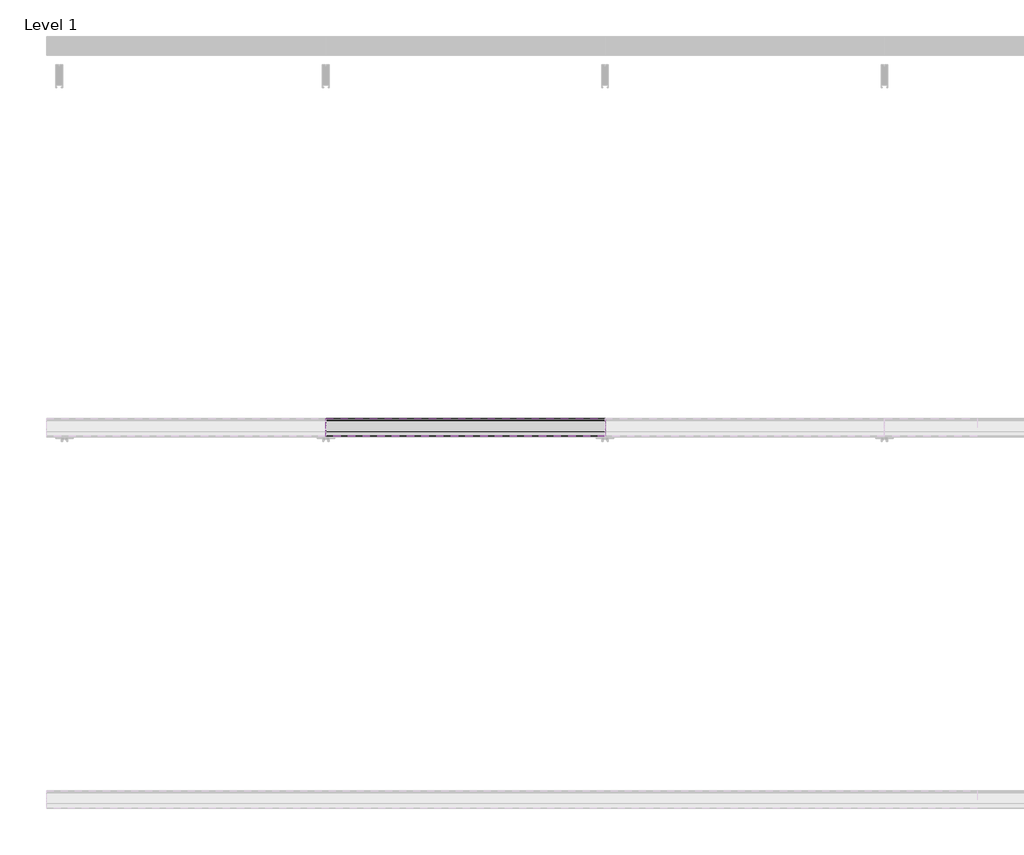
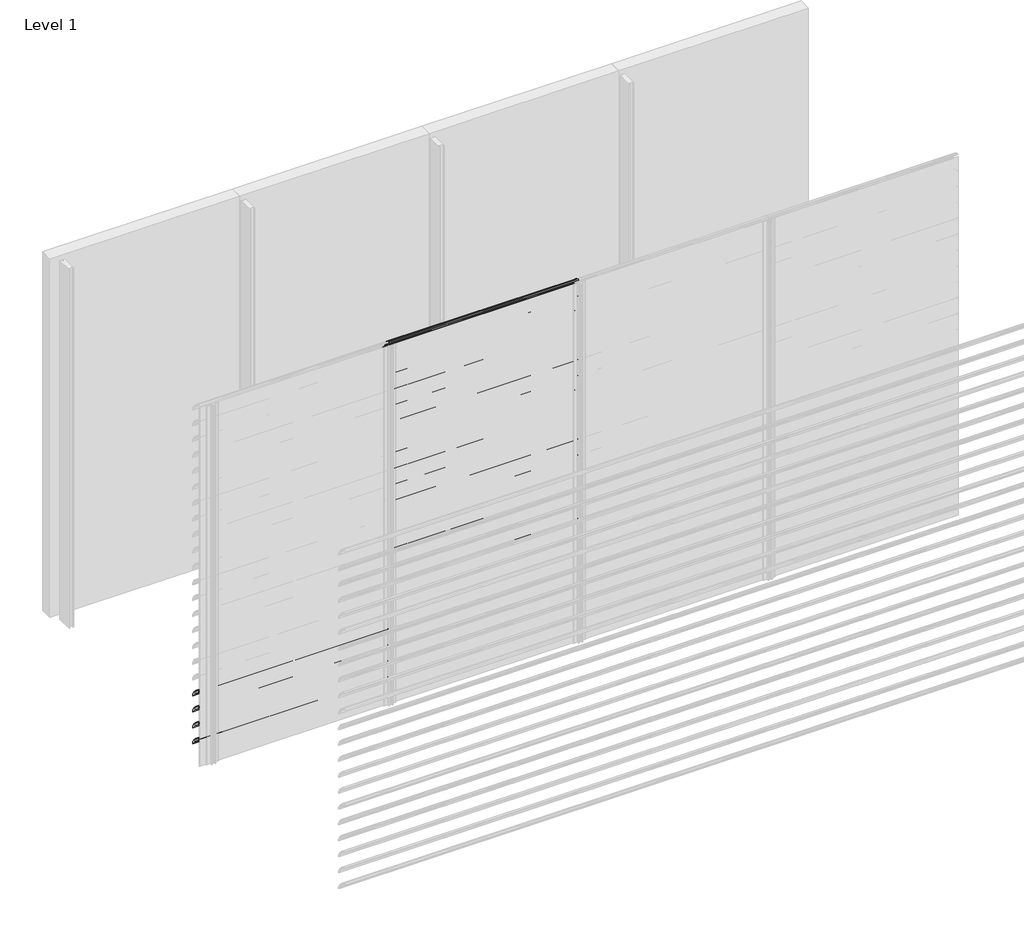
# One storey, part 5 of 57: 20 proxies.
"""IFC4 building model written with IfcOpenShell, lengths in millimetres."""

from ifc_helpers import new_model, si_unit, point, frame, frame_2d, origin, place, context, project, spatial, polyline, circle_curve, trimmed, segment, composite_curve, outline, extrude, element, save

model = new_model("IFC4")

# Units and contexts
model_context = context("Model", 3, world=origin())
ifc_project = project(units=[si_unit("LENGTHUNIT", "METRE", prefix="MILLI")], contexts=[model_context])

# Site, building, storey
site = spatial("IfcSite", under=ifc_project)
building = spatial("IfcBuilding", under=site)
storey = spatial("IfcBuildingStorey", under=building, Name="Level 1", Elevation=0.0)

# Proxies
placement = place(None, origin())
element("IfcBuildingElementProxy", 1, Name="Wall Sweeps", at=placement, inside=storey, context=model_context, shape_type="SweptSolid", body=[
    extrude(outline(composite_curve([segment(trimmed(circle_curve(frame_2d((-53993.7822526, 622.4913792)), 4.2177474), [point((-53989.6985606, 623.5462976))], [point((-53993.7822526, 626.7091266))], False, "CARTESIAN"), True, "CONTINUOUS"), segment(trimmed(circle_curve(frame_2d((-54018.7150834, 524.2536312)), 105.4456002), [point((-53993.7822526, 626.7091266))], [point((-53971.7914298, 618.6832099))], False, "CARTESIAN"), True, "CONTINUOUS"), segment(trimmed(circle_curve(frame_2d((-54061.7199745, 470.0352476)), 173.7335887), [point((-53971.7914298, 618.6832099))], [point((-53913.0720121, 559.9637922))], False, "CARTESIAN"), True, "CONTINUOUS"), segment(trimmed(circle_curve(frame_2d((-54004.9297178, 508.1860314)), 105.4456002), [point((-53913.0720121, 559.9637922))], [point((-53903.6249616, 537.4455765))], False, "CARTESIAN"), True, "CONTINUOUS"), segment(trimmed(circle_curve(frame_2d((-53907.809737, 536.3307305)), 4.3307305), [point((-53903.6249616, 537.4455765))], [point((-53909.0769196, 532.189538))], False, "CARTESIAN"), True, "CONTINUOUS"), segment(polyline([(-53909.0769196, 532.189538), (-53934.7401984, 556.9722783)]), True, "CONTINUOUS"), segment(trimmed(circle_curve(frame_2d((-53931.3879574, 559.2977626)), 4.079877), [point((-53934.7401984, 556.9722783))], [point((-53930.7310597, 563.3244091))], False, "CARTESIAN"), True, "CONTINUOUS"), segment(trimmed(circle_curve(frame_2d((-54014.6665585, 541.2544323)), 86.7885467), [point((-53930.7310597, 563.3244091))], [point((-53942.3028351, 589.1683485))], True, "CARTESIAN"), True, "CONTINUOUS"), segment(polyline([(-53942.3028351, 589.1683485), (-53940.7230099, 591.9046861)]), True, "CONTINUOUS"), segment(trimmed(circle_curve(frame_2d((-54061.7199745, 470.0352476)), 171.7335887), [point((-53940.7230099, 591.9046861))], [point((-53972.7555872, 616.9289618))], True, "CARTESIAN"), True, "CONTINUOUS"), segment(trimmed(circle_curve(frame_2d((-54018.7150834, 524.2536312)), 103.4456002), [point((-53972.7555872, 616.9289618))], [point((-53989.6985606, 623.5462976))], True, "CARTESIAN"), True, "CONTINUOUS")], self_intersect=False)), frame((0.0, 0.0, 0.0), z_axis=(1.0, 0.0, 0.0), x_axis=(0.0, 1.0, 0.0)), (0.0, 0.0, 1.0), 1500.0),
])
element("IfcBuildingElementProxy", 2, Name="Wall Sweeps", at=placement, inside=storey, context=model_context, shape_type="SweptSolid", body=[
    extrude(outline(composite_curve([segment(trimmed(circle_curve(frame_2d((-53993.7822526, 489.4913792)), 4.2177474), [point((-53989.6985606, 490.5462976))], [point((-53993.7822526, 493.7091266))], False, "CARTESIAN"), True, "CONTINUOUS"), segment(trimmed(circle_curve(frame_2d((-54018.7150834, 391.2536312)), 105.4456002), [point((-53993.7822526, 493.7091266))], [point((-53971.7914298, 485.6832099))], False, "CARTESIAN"), True, "CONTINUOUS"), segment(trimmed(circle_curve(frame_2d((-54061.7199745, 337.0352476)), 173.7335887), [point((-53971.7914298, 485.6832099))], [point((-53913.0720121, 426.9637922))], False, "CARTESIAN"), True, "CONTINUOUS"), segment(trimmed(circle_curve(frame_2d((-54004.9297178, 375.1860314)), 105.4456002), [point((-53913.0720121, 426.9637922))], [point((-53903.6249616, 404.4455765))], False, "CARTESIAN"), True, "CONTINUOUS"), segment(trimmed(circle_curve(frame_2d((-53907.809737, 403.3307305)), 4.3307305), [point((-53903.6249616, 404.4455765))], [point((-53909.0769196, 399.189538))], False, "CARTESIAN"), True, "CONTINUOUS"), segment(polyline([(-53909.0769196, 399.189538), (-53934.7401984, 423.9722783)]), True, "CONTINUOUS"), segment(trimmed(circle_curve(frame_2d((-53931.3879574, 426.2977626)), 4.079877), [point((-53934.7401984, 423.9722783))], [point((-53930.7310597, 430.3244091))], False, "CARTESIAN"), True, "CONTINUOUS"), segment(trimmed(circle_curve(frame_2d((-54014.6665585, 408.2544323)), 86.7885467), [point((-53930.7310597, 430.3244091))], [point((-53942.3028351, 456.1683485))], True, "CARTESIAN"), True, "CONTINUOUS"), segment(polyline([(-53942.3028351, 456.1683485), (-53940.7230099, 458.9046861)]), True, "CONTINUOUS"), segment(trimmed(circle_curve(frame_2d((-54061.7199745, 337.0352476)), 171.7335887), [point((-53940.7230099, 458.9046861))], [point((-53972.7555872, 483.9289618))], True, "CARTESIAN"), True, "CONTINUOUS"), segment(trimmed(circle_curve(frame_2d((-54018.7150834, 391.2536312)), 103.4456002), [point((-53972.7555872, 483.9289618))], [point((-53989.6985606, 490.5462976))], True, "CARTESIAN"), True, "CONTINUOUS")], self_intersect=False)), frame((0.0, 0.0, 0.0), z_axis=(1.0, 0.0, 0.0), x_axis=(0.0, 1.0, 0.0)), (0.0, 0.0, 1.0), 1500.0),
])
element("IfcBuildingElementProxy", 3, Name="Wall Sweeps", at=placement, inside=storey, context=model_context, shape_type="SweptSolid", body=[
    extrude(outline(composite_curve([segment(trimmed(circle_curve(frame_2d((-53993.7822526, 356.4913792)), 4.2177474), [point((-53989.6985606, 357.5462976))], [point((-53993.7822526, 360.7091266))], False, "CARTESIAN"), True, "CONTINUOUS"), segment(trimmed(circle_curve(frame_2d((-54018.7150834, 258.2536312)), 105.4456002), [point((-53993.7822526, 360.7091266))], [point((-53971.7914298, 352.6832099))], False, "CARTESIAN"), True, "CONTINUOUS"), segment(trimmed(circle_curve(frame_2d((-54061.7199745, 204.0352476)), 173.7335887), [point((-53971.7914298, 352.6832099))], [point((-53913.0720121, 293.9637922))], False, "CARTESIAN"), True, "CONTINUOUS"), segment(trimmed(circle_curve(frame_2d((-54004.9297178, 242.1860314)), 105.4456002), [point((-53913.0720121, 293.9637922))], [point((-53903.6249616, 271.4455765))], False, "CARTESIAN"), True, "CONTINUOUS"), segment(trimmed(circle_curve(frame_2d((-53907.809737, 270.3307305)), 4.3307305), [point((-53903.6249616, 271.4455765))], [point((-53909.0769196, 266.189538))], False, "CARTESIAN"), True, "CONTINUOUS"), segment(polyline([(-53909.0769196, 266.189538), (-53934.7401984, 290.9722783)]), True, "CONTINUOUS"), segment(trimmed(circle_curve(frame_2d((-53931.3879574, 293.2977626)), 4.079877), [point((-53934.7401984, 290.9722783))], [point((-53930.7310597, 297.3244091))], False, "CARTESIAN"), True, "CONTINUOUS"), segment(trimmed(circle_curve(frame_2d((-54014.6665585, 275.2544323)), 86.7885467), [point((-53930.7310597, 297.3244091))], [point((-53942.3028351, 323.1683485))], True, "CARTESIAN"), True, "CONTINUOUS"), segment(polyline([(-53942.3028351, 323.1683485), (-53940.7230099, 325.9046861)]), True, "CONTINUOUS"), segment(trimmed(circle_curve(frame_2d((-54061.7199745, 204.0352476)), 171.7335887), [point((-53940.7230099, 325.9046861))], [point((-53972.7555872, 350.9289618))], True, "CARTESIAN"), True, "CONTINUOUS"), segment(trimmed(circle_curve(frame_2d((-54018.7150834, 258.2536312)), 103.4456002), [point((-53972.7555872, 350.9289618))], [point((-53989.6985606, 357.5462976))], True, "CARTESIAN"), True, "CONTINUOUS")], self_intersect=False)), frame((0.0, 0.0, 0.0), z_axis=(1.0, 0.0, 0.0), x_axis=(0.0, 1.0, 0.0)), (0.0, 0.0, 1.0), 1500.0),
])
element("IfcBuildingElementProxy", 4, Name="Wall Sweeps", at=placement, inside=storey, context=model_context, shape_type="SweptSolid", body=[
    extrude(outline(composite_curve([segment(trimmed(circle_curve(frame_2d((-53993.7822526, 223.4913792)), 4.2177474), [point((-53989.6985606, 224.5462976))], [point((-53993.7822526, 227.7091266))], False, "CARTESIAN"), True, "CONTINUOUS"), segment(trimmed(circle_curve(frame_2d((-54018.7150834, 125.2536312)), 105.4456002), [point((-53993.7822526, 227.7091266))], [point((-53971.7914298, 219.6832099))], False, "CARTESIAN"), True, "CONTINUOUS"), segment(trimmed(circle_curve(frame_2d((-54061.7199745, 71.0352476)), 173.7335887), [point((-53971.7914298, 219.6832099))], [point((-53913.0720121, 160.9637922))], False, "CARTESIAN"), True, "CONTINUOUS"), segment(trimmed(circle_curve(frame_2d((-54004.9297178, 109.1860314)), 105.4456002), [point((-53913.0720121, 160.9637922))], [point((-53903.6249616, 138.4455765))], False, "CARTESIAN"), True, "CONTINUOUS"), segment(trimmed(circle_curve(frame_2d((-53907.809737, 137.3307305)), 4.3307305), [point((-53903.6249616, 138.4455765))], [point((-53909.0769196, 133.189538))], False, "CARTESIAN"), True, "CONTINUOUS"), segment(polyline([(-53909.0769196, 133.189538), (-53934.7401984, 157.9722783)]), True, "CONTINUOUS"), segment(trimmed(circle_curve(frame_2d((-53931.3879574, 160.2977626)), 4.079877), [point((-53934.7401984, 157.9722783))], [point((-53930.7310597, 164.3244091))], False, "CARTESIAN"), True, "CONTINUOUS"), segment(trimmed(circle_curve(frame_2d((-54014.6665585, 142.2544323)), 86.7885467), [point((-53930.7310597, 164.3244091))], [point((-53942.3028351, 190.1683485))], True, "CARTESIAN"), True, "CONTINUOUS"), segment(polyline([(-53942.3028351, 190.1683485), (-53940.7230099, 192.9046861)]), True, "CONTINUOUS"), segment(trimmed(circle_curve(frame_2d((-54061.7199745, 71.0352476)), 171.7335887), [point((-53940.7230099, 192.9046861))], [point((-53972.7555872, 217.9289618))], True, "CARTESIAN"), True, "CONTINUOUS"), segment(trimmed(circle_curve(frame_2d((-54018.7150834, 125.2536312)), 103.4456002), [point((-53972.7555872, 217.9289618))], [point((-53989.6985606, 224.5462976))], True, "CARTESIAN"), True, "CONTINUOUS")], self_intersect=False)), frame((0.0, 0.0, 0.0), z_axis=(1.0, 0.0, 0.0), x_axis=(0.0, 1.0, 0.0)), (0.0, 0.0, 1.0), 1500.0),
])
element("IfcBuildingElementProxy", 5, Name="Wall Sweeps", at=placement, inside=storey, context=model_context, shape_type="SweptSolid", body=[
    extrude(outline(composite_curve([segment(trimmed(circle_curve(frame_2d((-53993.7822526, 3016.4913792)), 4.2177474), [point((-53989.6985606, 3017.5462976))], [point((-53993.7822526, 3020.7091266))], False, "CARTESIAN"), True, "CONTINUOUS"), segment(trimmed(circle_curve(frame_2d((-54018.7150834, 2918.2536312)), 105.4456002), [point((-53993.7822526, 3020.7091266))], [point((-53971.7914298, 3012.6832099))], False, "CARTESIAN"), True, "CONTINUOUS"), segment(trimmed(circle_curve(frame_2d((-54061.7199745, 2864.0352476)), 173.7335887), [point((-53971.7914298, 3012.6832099))], [point((-53913.0720121, 2953.9637922))], False, "CARTESIAN"), True, "CONTINUOUS"), segment(trimmed(circle_curve(frame_2d((-54004.9297178, 2902.1860314)), 105.4456002), [point((-53913.0720121, 2953.9637922))], [point((-53903.6249616, 2931.4455765))], False, "CARTESIAN"), True, "CONTINUOUS"), segment(trimmed(circle_curve(frame_2d((-53907.809737, 2930.3307305)), 4.3307305), [point((-53903.6249616, 2931.4455765))], [point((-53909.0769196, 2926.189538))], False, "CARTESIAN"), True, "CONTINUOUS"), segment(polyline([(-53909.0769196, 2926.189538), (-53934.7401984, 2950.9722783)]), True, "CONTINUOUS"), segment(trimmed(circle_curve(frame_2d((-53931.3879574, 2953.2977626)), 4.079877), [point((-53934.7401984, 2950.9722783))], [point((-53930.7310597, 2957.3244091))], False, "CARTESIAN"), True, "CONTINUOUS"), segment(trimmed(circle_curve(frame_2d((-54014.6665585, 2935.2544323)), 86.7885467), [point((-53930.7310597, 2957.3244091))], [point((-53942.3028351, 2983.1683485))], True, "CARTESIAN"), True, "CONTINUOUS"), segment(polyline([(-53942.3028351, 2983.1683485), (-53940.7230099, 2985.9046861)]), True, "CONTINUOUS"), segment(trimmed(circle_curve(frame_2d((-54061.7199745, 2864.0352476)), 171.7335887), [point((-53940.7230099, 2985.9046861))], [point((-53972.7555872, 3010.9289618))], True, "CARTESIAN"), True, "CONTINUOUS"), segment(trimmed(circle_curve(frame_2d((-54018.7150834, 2918.2536312)), 103.4456002), [point((-53972.7555872, 3010.9289618))], [point((-53989.6985606, 3017.5462976))], True, "CARTESIAN"), True, "CONTINUOUS")], self_intersect=False)), frame((1500.0, 0.0, 0.0), z_axis=(1.0, 0.0, 0.0), x_axis=(0.0, 1.0, 0.0)), (0.0, 0.0, 1.0), 1500.0),
])
element("IfcBuildingElementProxy", 6, Name="Wall Sweeps", at=placement, inside=storey, context=model_context, shape_type="SweptSolid", body=[
    extrude(outline(composite_curve([segment(trimmed(circle_curve(frame_2d((-53993.7822526, 2883.4913792)), 4.2177474), [point((-53989.6985606, 2884.5462976))], [point((-53993.7822526, 2887.7091266))], False, "CARTESIAN"), True, "CONTINUOUS"), segment(trimmed(circle_curve(frame_2d((-54018.7150834, 2785.2536312)), 105.4456002), [point((-53993.7822526, 2887.7091266))], [point((-53971.7914298, 2879.6832099))], False, "CARTESIAN"), True, "CONTINUOUS"), segment(trimmed(circle_curve(frame_2d((-54061.7199745, 2731.0352476)), 173.7335887), [point((-53971.7914298, 2879.6832099))], [point((-53913.0720121, 2820.9637922))], False, "CARTESIAN"), True, "CONTINUOUS"), segment(trimmed(circle_curve(frame_2d((-54004.9297178, 2769.1860314)), 105.4456002), [point((-53913.0720121, 2820.9637922))], [point((-53903.6249616, 2798.4455765))], False, "CARTESIAN"), True, "CONTINUOUS"), segment(trimmed(circle_curve(frame_2d((-53907.809737, 2797.3307305)), 4.3307305), [point((-53903.6249616, 2798.4455765))], [point((-53909.0769196, 2793.189538))], False, "CARTESIAN"), True, "CONTINUOUS"), segment(polyline([(-53909.0769196, 2793.189538), (-53934.7401984, 2817.9722783)]), True, "CONTINUOUS"), segment(trimmed(circle_curve(frame_2d((-53931.3879574, 2820.2977626)), 4.079877), [point((-53934.7401984, 2817.9722783))], [point((-53930.7310597, 2824.3244091))], False, "CARTESIAN"), True, "CONTINUOUS"), segment(trimmed(circle_curve(frame_2d((-54014.6665585, 2802.2544323)), 86.7885467), [point((-53930.7310597, 2824.3244091))], [point((-53942.3028351, 2850.1683485))], True, "CARTESIAN"), True, "CONTINUOUS"), segment(polyline([(-53942.3028351, 2850.1683485), (-53940.7230099, 2852.9046861)]), True, "CONTINUOUS"), segment(trimmed(circle_curve(frame_2d((-54061.7199745, 2731.0352476)), 171.7335887), [point((-53940.7230099, 2852.9046861))], [point((-53972.7555872, 2877.9289618))], True, "CARTESIAN"), True, "CONTINUOUS"), segment(trimmed(circle_curve(frame_2d((-54018.7150834, 2785.2536312)), 103.4456002), [point((-53972.7555872, 2877.9289618))], [point((-53989.6985606, 2884.5462976))], True, "CARTESIAN"), True, "CONTINUOUS")], self_intersect=False)), frame((1500.0, 0.0, 0.0), z_axis=(1.0, 0.0, 0.0), x_axis=(0.0, 1.0, 0.0)), (0.0, 0.0, 1.0), 1500.0),
])
element("IfcBuildingElementProxy", 7, Name="Wall Sweeps", at=placement, inside=storey, context=model_context, shape_type="SweptSolid", body=[
    extrude(outline(composite_curve([segment(trimmed(circle_curve(frame_2d((-53993.7822526, 2750.4913792)), 4.2177474), [point((-53989.6985606, 2751.5462976))], [point((-53993.7822526, 2754.7091266))], False, "CARTESIAN"), True, "CONTINUOUS"), segment(trimmed(circle_curve(frame_2d((-54018.7150834, 2652.2536312)), 105.4456002), [point((-53993.7822526, 2754.7091266))], [point((-53971.7914298, 2746.6832099))], False, "CARTESIAN"), True, "CONTINUOUS"), segment(trimmed(circle_curve(frame_2d((-54061.7199745, 2598.0352476)), 173.7335887), [point((-53971.7914298, 2746.6832099))], [point((-53913.0720121, 2687.9637922))], False, "CARTESIAN"), True, "CONTINUOUS"), segment(trimmed(circle_curve(frame_2d((-54004.9297178, 2636.1860314)), 105.4456002), [point((-53913.0720121, 2687.9637922))], [point((-53903.6249616, 2665.4455765))], False, "CARTESIAN"), True, "CONTINUOUS"), segment(trimmed(circle_curve(frame_2d((-53907.809737, 2664.3307305)), 4.3307305), [point((-53903.6249616, 2665.4455765))], [point((-53909.0769196, 2660.189538))], False, "CARTESIAN"), True, "CONTINUOUS"), segment(polyline([(-53909.0769196, 2660.189538), (-53934.7401984, 2684.9722783)]), True, "CONTINUOUS"), segment(trimmed(circle_curve(frame_2d((-53931.3879574, 2687.2977626)), 4.079877), [point((-53934.7401984, 2684.9722783))], [point((-53930.7310597, 2691.3244091))], False, "CARTESIAN"), True, "CONTINUOUS"), segment(trimmed(circle_curve(frame_2d((-54014.6665585, 2669.2544323)), 86.7885467), [point((-53930.7310597, 2691.3244091))], [point((-53942.3028351, 2717.1683485))], True, "CARTESIAN"), True, "CONTINUOUS"), segment(polyline([(-53942.3028351, 2717.1683485), (-53940.7230099, 2719.9046861)]), True, "CONTINUOUS"), segment(trimmed(circle_curve(frame_2d((-54061.7199745, 2598.0352476)), 171.7335887), [point((-53940.7230099, 2719.9046861))], [point((-53972.7555872, 2744.9289618))], True, "CARTESIAN"), True, "CONTINUOUS"), segment(trimmed(circle_curve(frame_2d((-54018.7150834, 2652.2536312)), 103.4456002), [point((-53972.7555872, 2744.9289618))], [point((-53989.6985606, 2751.5462976))], True, "CARTESIAN"), True, "CONTINUOUS")], self_intersect=False)), frame((1500.0, 0.0, 0.0), z_axis=(1.0, 0.0, 0.0), x_axis=(0.0, 1.0, 0.0)), (0.0, 0.0, 1.0), 1500.0),
])
element("IfcBuildingElementProxy", 8, Name="Wall Sweeps", at=placement, inside=storey, context=model_context, shape_type="SweptSolid", body=[
    extrude(outline(composite_curve([segment(trimmed(circle_curve(frame_2d((-53993.7822526, 2617.4913792)), 4.2177474), [point((-53989.6985606, 2618.5462976))], [point((-53993.7822526, 2621.7091266))], False, "CARTESIAN"), True, "CONTINUOUS"), segment(trimmed(circle_curve(frame_2d((-54018.7150834, 2519.2536312)), 105.4456002), [point((-53993.7822526, 2621.7091266))], [point((-53971.7914298, 2613.6832099))], False, "CARTESIAN"), True, "CONTINUOUS"), segment(trimmed(circle_curve(frame_2d((-54061.7199745, 2465.0352476)), 173.7335887), [point((-53971.7914298, 2613.6832099))], [point((-53913.0720121, 2554.9637922))], False, "CARTESIAN"), True, "CONTINUOUS"), segment(trimmed(circle_curve(frame_2d((-54004.9297178, 2503.1860314)), 105.4456002), [point((-53913.0720121, 2554.9637922))], [point((-53903.6249616, 2532.4455765))], False, "CARTESIAN"), True, "CONTINUOUS"), segment(trimmed(circle_curve(frame_2d((-53907.809737, 2531.3307305)), 4.3307305), [point((-53903.6249616, 2532.4455765))], [point((-53909.0769196, 2527.189538))], False, "CARTESIAN"), True, "CONTINUOUS"), segment(polyline([(-53909.0769196, 2527.189538), (-53934.7401984, 2551.9722783)]), True, "CONTINUOUS"), segment(trimmed(circle_curve(frame_2d((-53931.3879574, 2554.2977626)), 4.079877), [point((-53934.7401984, 2551.9722783))], [point((-53930.7310597, 2558.3244091))], False, "CARTESIAN"), True, "CONTINUOUS"), segment(trimmed(circle_curve(frame_2d((-54014.6665585, 2536.2544323)), 86.7885467), [point((-53930.7310597, 2558.3244091))], [point((-53942.3028351, 2584.1683485))], True, "CARTESIAN"), True, "CONTINUOUS"), segment(polyline([(-53942.3028351, 2584.1683485), (-53940.7230099, 2586.9046861)]), True, "CONTINUOUS"), segment(trimmed(circle_curve(frame_2d((-54061.7199745, 2465.0352476)), 171.7335887), [point((-53940.7230099, 2586.9046861))], [point((-53972.7555872, 2611.9289618))], True, "CARTESIAN"), True, "CONTINUOUS"), segment(trimmed(circle_curve(frame_2d((-54018.7150834, 2519.2536312)), 103.4456002), [point((-53972.7555872, 2611.9289618))], [point((-53989.6985606, 2618.5462976))], True, "CARTESIAN"), True, "CONTINUOUS")], self_intersect=False)), frame((1500.0, 0.0, 0.0), z_axis=(1.0, 0.0, 0.0), x_axis=(0.0, 1.0, 0.0)), (0.0, 0.0, 1.0), 1500.0),
])
element("IfcBuildingElementProxy", 9, Name="Wall Sweeps", at=placement, inside=storey, context=model_context, shape_type="SweptSolid", body=[
    extrude(outline(composite_curve([segment(trimmed(circle_curve(frame_2d((-53993.7822526, 2484.4913792)), 4.2177474), [point((-53989.6985606, 2485.5462976))], [point((-53993.7822526, 2488.7091266))], False, "CARTESIAN"), True, "CONTINUOUS"), segment(trimmed(circle_curve(frame_2d((-54018.7150834, 2386.2536312)), 105.4456002), [point((-53993.7822526, 2488.7091266))], [point((-53971.7914298, 2480.6832099))], False, "CARTESIAN"), True, "CONTINUOUS"), segment(trimmed(circle_curve(frame_2d((-54061.7199745, 2332.0352476)), 173.7335887), [point((-53971.7914298, 2480.6832099))], [point((-53913.0720121, 2421.9637922))], False, "CARTESIAN"), True, "CONTINUOUS"), segment(trimmed(circle_curve(frame_2d((-54004.9297178, 2370.1860314)), 105.4456002), [point((-53913.0720121, 2421.9637922))], [point((-53903.6249616, 2399.4455765))], False, "CARTESIAN"), True, "CONTINUOUS"), segment(trimmed(circle_curve(frame_2d((-53907.809737, 2398.3307305)), 4.3307305), [point((-53903.6249616, 2399.4455765))], [point((-53909.0769196, 2394.189538))], False, "CARTESIAN"), True, "CONTINUOUS"), segment(polyline([(-53909.0769196, 2394.189538), (-53934.7401984, 2418.9722783)]), True, "CONTINUOUS"), segment(trimmed(circle_curve(frame_2d((-53931.3879574, 2421.2977626)), 4.079877), [point((-53934.7401984, 2418.9722783))], [point((-53930.7310597, 2425.3244091))], False, "CARTESIAN"), True, "CONTINUOUS"), segment(trimmed(circle_curve(frame_2d((-54014.6665585, 2403.2544323)), 86.7885467), [point((-53930.7310597, 2425.3244091))], [point((-53942.3028351, 2451.1683485))], True, "CARTESIAN"), True, "CONTINUOUS"), segment(polyline([(-53942.3028351, 2451.1683485), (-53940.7230099, 2453.9046861)]), True, "CONTINUOUS"), segment(trimmed(circle_curve(frame_2d((-54061.7199745, 2332.0352476)), 171.7335887), [point((-53940.7230099, 2453.9046861))], [point((-53972.7555872, 2478.9289618))], True, "CARTESIAN"), True, "CONTINUOUS"), segment(trimmed(circle_curve(frame_2d((-54018.7150834, 2386.2536312)), 103.4456002), [point((-53972.7555872, 2478.9289618))], [point((-53989.6985606, 2485.5462976))], True, "CARTESIAN"), True, "CONTINUOUS")], self_intersect=False)), frame((1500.0, 0.0, 0.0), z_axis=(1.0, 0.0, 0.0), x_axis=(0.0, 1.0, 0.0)), (0.0, 0.0, 1.0), 1500.0),
])
element("IfcBuildingElementProxy", 10, Name="Wall Sweeps", at=placement, inside=storey, context=model_context, shape_type="SweptSolid", body=[
    extrude(outline(composite_curve([segment(trimmed(circle_curve(frame_2d((-53993.7822526, 2351.4913792)), 4.2177474), [point((-53989.6985606, 2352.5462976))], [point((-53993.7822526, 2355.7091266))], False, "CARTESIAN"), True, "CONTINUOUS"), segment(trimmed(circle_curve(frame_2d((-54018.7150834, 2253.2536312)), 105.4456002), [point((-53993.7822526, 2355.7091266))], [point((-53971.7914298, 2347.6832099))], False, "CARTESIAN"), True, "CONTINUOUS"), segment(trimmed(circle_curve(frame_2d((-54061.7199745, 2199.0352476)), 173.7335887), [point((-53971.7914298, 2347.6832099))], [point((-53913.0720121, 2288.9637922))], False, "CARTESIAN"), True, "CONTINUOUS"), segment(trimmed(circle_curve(frame_2d((-54004.9297178, 2237.1860314)), 105.4456002), [point((-53913.0720121, 2288.9637922))], [point((-53903.6249616, 2266.4455765))], False, "CARTESIAN"), True, "CONTINUOUS"), segment(trimmed(circle_curve(frame_2d((-53907.809737, 2265.3307305)), 4.3307305), [point((-53903.6249616, 2266.4455765))], [point((-53909.0769196, 2261.189538))], False, "CARTESIAN"), True, "CONTINUOUS"), segment(polyline([(-53909.0769196, 2261.189538), (-53934.7401984, 2285.9722783)]), True, "CONTINUOUS"), segment(trimmed(circle_curve(frame_2d((-53931.3879574, 2288.2977626)), 4.079877), [point((-53934.7401984, 2285.9722783))], [point((-53930.7310597, 2292.3244091))], False, "CARTESIAN"), True, "CONTINUOUS"), segment(trimmed(circle_curve(frame_2d((-54014.6665585, 2270.2544323)), 86.7885467), [point((-53930.7310597, 2292.3244091))], [point((-53942.3028351, 2318.1683485))], True, "CARTESIAN"), True, "CONTINUOUS"), segment(polyline([(-53942.3028351, 2318.1683485), (-53940.7230099, 2320.9046861)]), True, "CONTINUOUS"), segment(trimmed(circle_curve(frame_2d((-54061.7199745, 2199.0352476)), 171.7335887), [point((-53940.7230099, 2320.9046861))], [point((-53972.7555872, 2345.9289618))], True, "CARTESIAN"), True, "CONTINUOUS"), segment(trimmed(circle_curve(frame_2d((-54018.7150834, 2253.2536312)), 103.4456002), [point((-53972.7555872, 2345.9289618))], [point((-53989.6985606, 2352.5462976))], True, "CARTESIAN"), True, "CONTINUOUS")], self_intersect=False)), frame((1500.0, 0.0, 0.0), z_axis=(1.0, 0.0, 0.0), x_axis=(0.0, 1.0, 0.0)), (0.0, 0.0, 1.0), 1500.0),
])
element("IfcBuildingElementProxy", 11, Name="Wall Sweeps", at=placement, inside=storey, context=model_context, shape_type="SweptSolid", body=[
    extrude(outline(composite_curve([segment(trimmed(circle_curve(frame_2d((-53993.7822526, 2218.4913792)), 4.2177474), [point((-53989.6985606, 2219.5462976))], [point((-53993.7822526, 2222.7091266))], False, "CARTESIAN"), True, "CONTINUOUS"), segment(trimmed(circle_curve(frame_2d((-54018.7150834, 2120.2536312)), 105.4456002), [point((-53993.7822526, 2222.7091266))], [point((-53971.7914298, 2214.6832099))], False, "CARTESIAN"), True, "CONTINUOUS"), segment(trimmed(circle_curve(frame_2d((-54061.7199745, 2066.0352476)), 173.7335887), [point((-53971.7914298, 2214.6832099))], [point((-53913.0720121, 2155.9637922))], False, "CARTESIAN"), True, "CONTINUOUS"), segment(trimmed(circle_curve(frame_2d((-54004.9297178, 2104.1860314)), 105.4456002), [point((-53913.0720121, 2155.9637922))], [point((-53903.6249616, 2133.4455765))], False, "CARTESIAN"), True, "CONTINUOUS"), segment(trimmed(circle_curve(frame_2d((-53907.809737, 2132.3307305)), 4.3307305), [point((-53903.6249616, 2133.4455765))], [point((-53909.0769196, 2128.189538))], False, "CARTESIAN"), True, "CONTINUOUS"), segment(polyline([(-53909.0769196, 2128.189538), (-53934.7401984, 2152.9722783)]), True, "CONTINUOUS"), segment(trimmed(circle_curve(frame_2d((-53931.3879574, 2155.2977626)), 4.079877), [point((-53934.7401984, 2152.9722783))], [point((-53930.7310597, 2159.3244091))], False, "CARTESIAN"), True, "CONTINUOUS"), segment(trimmed(circle_curve(frame_2d((-54014.6665585, 2137.2544323)), 86.7885467), [point((-53930.7310597, 2159.3244091))], [point((-53942.3028351, 2185.1683485))], True, "CARTESIAN"), True, "CONTINUOUS"), segment(polyline([(-53942.3028351, 2185.1683485), (-53940.7230099, 2187.9046861)]), True, "CONTINUOUS"), segment(trimmed(circle_curve(frame_2d((-54061.7199745, 2066.0352476)), 171.7335887), [point((-53940.7230099, 2187.9046861))], [point((-53972.7555872, 2212.9289618))], True, "CARTESIAN"), True, "CONTINUOUS"), segment(trimmed(circle_curve(frame_2d((-54018.7150834, 2120.2536312)), 103.4456002), [point((-53972.7555872, 2212.9289618))], [point((-53989.6985606, 2219.5462976))], True, "CARTESIAN"), True, "CONTINUOUS")], self_intersect=False)), frame((1500.0, 0.0, 0.0), z_axis=(1.0, 0.0, 0.0), x_axis=(0.0, 1.0, 0.0)), (0.0, 0.0, 1.0), 1500.0),
])
element("IfcBuildingElementProxy", 12, Name="Wall Sweeps", at=placement, inside=storey, context=model_context, shape_type="SweptSolid", body=[
    extrude(outline(composite_curve([segment(trimmed(circle_curve(frame_2d((-53993.7822526, 2085.4913792)), 4.2177474), [point((-53989.6985606, 2086.5462976))], [point((-53993.7822526, 2089.7091266))], False, "CARTESIAN"), True, "CONTINUOUS"), segment(trimmed(circle_curve(frame_2d((-54018.7150834, 1987.2536312)), 105.4456002), [point((-53993.7822526, 2089.7091266))], [point((-53971.7914298, 2081.6832099))], False, "CARTESIAN"), True, "CONTINUOUS"), segment(trimmed(circle_curve(frame_2d((-54061.7199745, 1933.0352476)), 173.7335887), [point((-53971.7914298, 2081.6832099))], [point((-53913.0720121, 2022.9637922))], False, "CARTESIAN"), True, "CONTINUOUS"), segment(trimmed(circle_curve(frame_2d((-54004.9297178, 1971.1860314)), 105.4456002), [point((-53913.0720121, 2022.9637922))], [point((-53903.6249616, 2000.4455765))], False, "CARTESIAN"), True, "CONTINUOUS"), segment(trimmed(circle_curve(frame_2d((-53907.809737, 1999.3307305)), 4.3307305), [point((-53903.6249616, 2000.4455765))], [point((-53909.0769196, 1995.189538))], False, "CARTESIAN"), True, "CONTINUOUS"), segment(polyline([(-53909.0769196, 1995.189538), (-53934.7401984, 2019.9722783)]), True, "CONTINUOUS"), segment(trimmed(circle_curve(frame_2d((-53931.3879574, 2022.2977626)), 4.079877), [point((-53934.7401984, 2019.9722783))], [point((-53930.7310597, 2026.3244091))], False, "CARTESIAN"), True, "CONTINUOUS"), segment(trimmed(circle_curve(frame_2d((-54014.6665585, 2004.2544323)), 86.7885467), [point((-53930.7310597, 2026.3244091))], [point((-53942.3028351, 2052.1683485))], True, "CARTESIAN"), True, "CONTINUOUS"), segment(polyline([(-53942.3028351, 2052.1683485), (-53940.7230099, 2054.9046861)]), True, "CONTINUOUS"), segment(trimmed(circle_curve(frame_2d((-54061.7199745, 1933.0352476)), 171.7335887), [point((-53940.7230099, 2054.9046861))], [point((-53972.7555872, 2079.9289618))], True, "CARTESIAN"), True, "CONTINUOUS"), segment(trimmed(circle_curve(frame_2d((-54018.7150834, 1987.2536312)), 103.4456002), [point((-53972.7555872, 2079.9289618))], [point((-53989.6985606, 2086.5462976))], True, "CARTESIAN"), True, "CONTINUOUS")], self_intersect=False)), frame((1500.0, 0.0, 0.0), z_axis=(1.0, 0.0, 0.0), x_axis=(0.0, 1.0, 0.0)), (0.0, 0.0, 1.0), 1500.0),
])
element("IfcBuildingElementProxy", 13, Name="Wall Sweeps", at=placement, inside=storey, context=model_context, shape_type="SweptSolid", body=[
    extrude(outline(composite_curve([segment(trimmed(circle_curve(frame_2d((-53993.7822526, 1952.4913792)), 4.2177474), [point((-53989.6985606, 1953.5462976))], [point((-53993.7822526, 1956.7091266))], False, "CARTESIAN"), True, "CONTINUOUS"), segment(trimmed(circle_curve(frame_2d((-54018.7150834, 1854.2536312)), 105.4456002), [point((-53993.7822526, 1956.7091266))], [point((-53971.7914298, 1948.6832099))], False, "CARTESIAN"), True, "CONTINUOUS"), segment(trimmed(circle_curve(frame_2d((-54061.7199745, 1800.0352476)), 173.7335887), [point((-53971.7914298, 1948.6832099))], [point((-53913.0720121, 1889.9637922))], False, "CARTESIAN"), True, "CONTINUOUS"), segment(trimmed(circle_curve(frame_2d((-54004.9297178, 1838.1860314)), 105.4456002), [point((-53913.0720121, 1889.9637922))], [point((-53903.6249616, 1867.4455765))], False, "CARTESIAN"), True, "CONTINUOUS"), segment(trimmed(circle_curve(frame_2d((-53907.809737, 1866.3307305)), 4.3307305), [point((-53903.6249616, 1867.4455765))], [point((-53909.0769196, 1862.189538))], False, "CARTESIAN"), True, "CONTINUOUS"), segment(polyline([(-53909.0769196, 1862.189538), (-53934.7401984, 1886.9722783)]), True, "CONTINUOUS"), segment(trimmed(circle_curve(frame_2d((-53931.3879574, 1889.2977626)), 4.079877), [point((-53934.7401984, 1886.9722783))], [point((-53930.7310597, 1893.3244091))], False, "CARTESIAN"), True, "CONTINUOUS"), segment(trimmed(circle_curve(frame_2d((-54014.6665585, 1871.2544323)), 86.7885467), [point((-53930.7310597, 1893.3244091))], [point((-53942.3028351, 1919.1683485))], True, "CARTESIAN"), True, "CONTINUOUS"), segment(polyline([(-53942.3028351, 1919.1683485), (-53940.7230099, 1921.9046861)]), True, "CONTINUOUS"), segment(trimmed(circle_curve(frame_2d((-54061.7199745, 1800.0352476)), 171.7335887), [point((-53940.7230099, 1921.9046861))], [point((-53972.7555872, 1946.9289618))], True, "CARTESIAN"), True, "CONTINUOUS"), segment(trimmed(circle_curve(frame_2d((-54018.7150834, 1854.2536312)), 103.4456002), [point((-53972.7555872, 1946.9289618))], [point((-53989.6985606, 1953.5462976))], True, "CARTESIAN"), True, "CONTINUOUS")], self_intersect=False)), frame((1500.0, 0.0, 0.0), z_axis=(1.0, 0.0, 0.0), x_axis=(0.0, 1.0, 0.0)), (0.0, 0.0, 1.0), 1500.0),
])
element("IfcBuildingElementProxy", 14, Name="Wall Sweeps", at=placement, inside=storey, context=model_context, shape_type="SweptSolid", body=[
    extrude(outline(composite_curve([segment(trimmed(circle_curve(frame_2d((-53993.7822526, 1819.4913792)), 4.2177474), [point((-53989.6985606, 1820.5462976))], [point((-53993.7822526, 1823.7091266))], False, "CARTESIAN"), True, "CONTINUOUS"), segment(trimmed(circle_curve(frame_2d((-54018.7150834, 1721.2536312)), 105.4456002), [point((-53993.7822526, 1823.7091266))], [point((-53971.7914298, 1815.6832099))], False, "CARTESIAN"), True, "CONTINUOUS"), segment(trimmed(circle_curve(frame_2d((-54061.7199745, 1667.0352476)), 173.7335887), [point((-53971.7914298, 1815.6832099))], [point((-53913.0720121, 1756.9637922))], False, "CARTESIAN"), True, "CONTINUOUS"), segment(trimmed(circle_curve(frame_2d((-54004.9297178, 1705.1860314)), 105.4456002), [point((-53913.0720121, 1756.9637922))], [point((-53903.6249616, 1734.4455765))], False, "CARTESIAN"), True, "CONTINUOUS"), segment(trimmed(circle_curve(frame_2d((-53907.809737, 1733.3307305)), 4.3307305), [point((-53903.6249616, 1734.4455765))], [point((-53909.0769196, 1729.189538))], False, "CARTESIAN"), True, "CONTINUOUS"), segment(polyline([(-53909.0769196, 1729.189538), (-53934.7401984, 1753.9722783)]), True, "CONTINUOUS"), segment(trimmed(circle_curve(frame_2d((-53931.3879574, 1756.2977626)), 4.079877), [point((-53934.7401984, 1753.9722783))], [point((-53930.7310597, 1760.3244091))], False, "CARTESIAN"), True, "CONTINUOUS"), segment(trimmed(circle_curve(frame_2d((-54014.6665585, 1738.2544323)), 86.7885467), [point((-53930.7310597, 1760.3244091))], [point((-53942.3028351, 1786.1683485))], True, "CARTESIAN"), True, "CONTINUOUS"), segment(polyline([(-53942.3028351, 1786.1683485), (-53940.7230099, 1788.9046861)]), True, "CONTINUOUS"), segment(trimmed(circle_curve(frame_2d((-54061.7199745, 1667.0352476)), 171.7335887), [point((-53940.7230099, 1788.9046861))], [point((-53972.7555872, 1813.9289618))], True, "CARTESIAN"), True, "CONTINUOUS"), segment(trimmed(circle_curve(frame_2d((-54018.7150834, 1721.2536312)), 103.4456002), [point((-53972.7555872, 1813.9289618))], [point((-53989.6985606, 1820.5462976))], True, "CARTESIAN"), True, "CONTINUOUS")], self_intersect=False)), frame((1500.0, 0.0, 0.0), z_axis=(1.0, 0.0, 0.0), x_axis=(0.0, 1.0, 0.0)), (0.0, 0.0, 1.0), 1500.0),
])
element("IfcBuildingElementProxy", 15, Name="Wall Sweeps", at=placement, inside=storey, context=model_context, shape_type="SweptSolid", body=[
    extrude(outline(composite_curve([segment(trimmed(circle_curve(frame_2d((-53993.7822526, 1686.4913792)), 4.2177474), [point((-53989.6985606, 1687.5462976))], [point((-53993.7822526, 1690.7091266))], False, "CARTESIAN"), True, "CONTINUOUS"), segment(trimmed(circle_curve(frame_2d((-54018.7150834, 1588.2536312)), 105.4456002), [point((-53993.7822526, 1690.7091266))], [point((-53971.7914298, 1682.6832099))], False, "CARTESIAN"), True, "CONTINUOUS"), segment(trimmed(circle_curve(frame_2d((-54061.7199745, 1534.0352476)), 173.7335887), [point((-53971.7914298, 1682.6832099))], [point((-53913.0720121, 1623.9637922))], False, "CARTESIAN"), True, "CONTINUOUS"), segment(trimmed(circle_curve(frame_2d((-54004.9297178, 1572.1860314)), 105.4456002), [point((-53913.0720121, 1623.9637922))], [point((-53903.6249616, 1601.4455765))], False, "CARTESIAN"), True, "CONTINUOUS"), segment(trimmed(circle_curve(frame_2d((-53907.809737, 1600.3307305)), 4.3307305), [point((-53903.6249616, 1601.4455765))], [point((-53909.0769196, 1596.189538))], False, "CARTESIAN"), True, "CONTINUOUS"), segment(polyline([(-53909.0769196, 1596.189538), (-53934.7401984, 1620.9722783)]), True, "CONTINUOUS"), segment(trimmed(circle_curve(frame_2d((-53931.3879574, 1623.2977626)), 4.079877), [point((-53934.7401984, 1620.9722783))], [point((-53930.7310597, 1627.3244091))], False, "CARTESIAN"), True, "CONTINUOUS"), segment(trimmed(circle_curve(frame_2d((-54014.6665585, 1605.2544323)), 86.7885467), [point((-53930.7310597, 1627.3244091))], [point((-53942.3028351, 1653.1683485))], True, "CARTESIAN"), True, "CONTINUOUS"), segment(polyline([(-53942.3028351, 1653.1683485), (-53940.7230099, 1655.9046861)]), True, "CONTINUOUS"), segment(trimmed(circle_curve(frame_2d((-54061.7199745, 1534.0352476)), 171.7335887), [point((-53940.7230099, 1655.9046861))], [point((-53972.7555872, 1680.9289618))], True, "CARTESIAN"), True, "CONTINUOUS"), segment(trimmed(circle_curve(frame_2d((-54018.7150834, 1588.2536312)), 103.4456002), [point((-53972.7555872, 1680.9289618))], [point((-53989.6985606, 1687.5462976))], True, "CARTESIAN"), True, "CONTINUOUS")], self_intersect=False)), frame((1500.0, 0.0, 0.0), z_axis=(1.0, 0.0, 0.0), x_axis=(0.0, 1.0, 0.0)), (0.0, 0.0, 1.0), 1500.0),
])
element("IfcBuildingElementProxy", 16, Name="Wall Sweeps", at=placement, inside=storey, context=model_context, shape_type="SweptSolid", body=[
    extrude(outline(composite_curve([segment(trimmed(circle_curve(frame_2d((-53993.7822526, 1553.4913792)), 4.2177474), [point((-53989.6985606, 1554.5462976))], [point((-53993.7822526, 1557.7091266))], False, "CARTESIAN"), True, "CONTINUOUS"), segment(trimmed(circle_curve(frame_2d((-54018.7150834, 1455.2536312)), 105.4456002), [point((-53993.7822526, 1557.7091266))], [point((-53971.7914298, 1549.6832099))], False, "CARTESIAN"), True, "CONTINUOUS"), segment(trimmed(circle_curve(frame_2d((-54061.7199745, 1401.0352476)), 173.7335887), [point((-53971.7914298, 1549.6832099))], [point((-53913.0720121, 1490.9637922))], False, "CARTESIAN"), True, "CONTINUOUS"), segment(trimmed(circle_curve(frame_2d((-54004.9297178, 1439.1860314)), 105.4456002), [point((-53913.0720121, 1490.9637922))], [point((-53903.6249616, 1468.4455765))], False, "CARTESIAN"), True, "CONTINUOUS"), segment(trimmed(circle_curve(frame_2d((-53907.809737, 1467.3307305)), 4.3307305), [point((-53903.6249616, 1468.4455765))], [point((-53909.0769196, 1463.189538))], False, "CARTESIAN"), True, "CONTINUOUS"), segment(polyline([(-53909.0769196, 1463.189538), (-53934.7401984, 1487.9722783)]), True, "CONTINUOUS"), segment(trimmed(circle_curve(frame_2d((-53931.3879574, 1490.2977626)), 4.079877), [point((-53934.7401984, 1487.9722783))], [point((-53930.7310597, 1494.3244091))], False, "CARTESIAN"), True, "CONTINUOUS"), segment(trimmed(circle_curve(frame_2d((-54014.6665585, 1472.2544323)), 86.7885467), [point((-53930.7310597, 1494.3244091))], [point((-53942.3028351, 1520.1683485))], True, "CARTESIAN"), True, "CONTINUOUS"), segment(polyline([(-53942.3028351, 1520.1683485), (-53940.7230099, 1522.9046861)]), True, "CONTINUOUS"), segment(trimmed(circle_curve(frame_2d((-54061.7199745, 1401.0352476)), 171.7335887), [point((-53940.7230099, 1522.9046861))], [point((-53972.7555872, 1547.9289618))], True, "CARTESIAN"), True, "CONTINUOUS"), segment(trimmed(circle_curve(frame_2d((-54018.7150834, 1455.2536312)), 103.4456002), [point((-53972.7555872, 1547.9289618))], [point((-53989.6985606, 1554.5462976))], True, "CARTESIAN"), True, "CONTINUOUS")], self_intersect=False)), frame((1500.0, 0.0, 0.0), z_axis=(1.0, 0.0, 0.0), x_axis=(0.0, 1.0, 0.0)), (0.0, 0.0, 1.0), 1500.0),
])
element("IfcBuildingElementProxy", 17, Name="Wall Sweeps", at=placement, inside=storey, context=model_context, shape_type="SweptSolid", body=[
    extrude(outline(composite_curve([segment(trimmed(circle_curve(frame_2d((-53993.7822526, 1420.4913792)), 4.2177474), [point((-53989.6985606, 1421.5462976))], [point((-53993.7822526, 1424.7091266))], False, "CARTESIAN"), True, "CONTINUOUS"), segment(trimmed(circle_curve(frame_2d((-54018.7150834, 1322.2536312)), 105.4456002), [point((-53993.7822526, 1424.7091266))], [point((-53971.7914298, 1416.6832099))], False, "CARTESIAN"), True, "CONTINUOUS"), segment(trimmed(circle_curve(frame_2d((-54061.7199745, 1268.0352476)), 173.7335887), [point((-53971.7914298, 1416.6832099))], [point((-53913.0720121, 1357.9637922))], False, "CARTESIAN"), True, "CONTINUOUS"), segment(trimmed(circle_curve(frame_2d((-54004.9297178, 1306.1860314)), 105.4456002), [point((-53913.0720121, 1357.9637922))], [point((-53903.6249616, 1335.4455765))], False, "CARTESIAN"), True, "CONTINUOUS"), segment(trimmed(circle_curve(frame_2d((-53907.809737, 1334.3307305)), 4.3307305), [point((-53903.6249616, 1335.4455765))], [point((-53909.0769196, 1330.189538))], False, "CARTESIAN"), True, "CONTINUOUS"), segment(polyline([(-53909.0769196, 1330.189538), (-53934.7401984, 1354.9722783)]), True, "CONTINUOUS"), segment(trimmed(circle_curve(frame_2d((-53931.3879574, 1357.2977626)), 4.079877), [point((-53934.7401984, 1354.9722783))], [point((-53930.7310597, 1361.3244091))], False, "CARTESIAN"), True, "CONTINUOUS"), segment(trimmed(circle_curve(frame_2d((-54014.6665585, 1339.2544323)), 86.7885467), [point((-53930.7310597, 1361.3244091))], [point((-53942.3028351, 1387.1683485))], True, "CARTESIAN"), True, "CONTINUOUS"), segment(polyline([(-53942.3028351, 1387.1683485), (-53940.7230099, 1389.9046861)]), True, "CONTINUOUS"), segment(trimmed(circle_curve(frame_2d((-54061.7199745, 1268.0352476)), 171.7335887), [point((-53940.7230099, 1389.9046861))], [point((-53972.7555872, 1414.9289618))], True, "CARTESIAN"), True, "CONTINUOUS"), segment(trimmed(circle_curve(frame_2d((-54018.7150834, 1322.2536312)), 103.4456002), [point((-53972.7555872, 1414.9289618))], [point((-53989.6985606, 1421.5462976))], True, "CARTESIAN"), True, "CONTINUOUS")], self_intersect=False)), frame((1500.0, 0.0, 0.0), z_axis=(1.0, 0.0, 0.0), x_axis=(0.0, 1.0, 0.0)), (0.0, 0.0, 1.0), 1500.0),
])
element("IfcBuildingElementProxy", 18, Name="Wall Sweeps", at=placement, inside=storey, context=model_context, shape_type="SweptSolid", body=[
    extrude(outline(composite_curve([segment(trimmed(circle_curve(frame_2d((-53993.7822526, 1287.4913792)), 4.2177474), [point((-53989.6985606, 1288.5462976))], [point((-53993.7822526, 1291.7091266))], False, "CARTESIAN"), True, "CONTINUOUS"), segment(trimmed(circle_curve(frame_2d((-54018.7150834, 1189.2536312)), 105.4456002), [point((-53993.7822526, 1291.7091266))], [point((-53971.7914298, 1283.6832099))], False, "CARTESIAN"), True, "CONTINUOUS"), segment(trimmed(circle_curve(frame_2d((-54061.7199745, 1135.0352476)), 173.7335887), [point((-53971.7914298, 1283.6832099))], [point((-53913.0720121, 1224.9637922))], False, "CARTESIAN"), True, "CONTINUOUS"), segment(trimmed(circle_curve(frame_2d((-54004.9297178, 1173.1860314)), 105.4456002), [point((-53913.0720121, 1224.9637922))], [point((-53903.6249616, 1202.4455765))], False, "CARTESIAN"), True, "CONTINUOUS"), segment(trimmed(circle_curve(frame_2d((-53907.809737, 1201.3307305)), 4.3307305), [point((-53903.6249616, 1202.4455765))], [point((-53909.0769196, 1197.189538))], False, "CARTESIAN"), True, "CONTINUOUS"), segment(polyline([(-53909.0769196, 1197.189538), (-53934.7401984, 1221.9722783)]), True, "CONTINUOUS"), segment(trimmed(circle_curve(frame_2d((-53931.3879574, 1224.2977626)), 4.079877), [point((-53934.7401984, 1221.9722783))], [point((-53930.7310597, 1228.3244091))], False, "CARTESIAN"), True, "CONTINUOUS"), segment(trimmed(circle_curve(frame_2d((-54014.6665585, 1206.2544323)), 86.7885467), [point((-53930.7310597, 1228.3244091))], [point((-53942.3028351, 1254.1683485))], True, "CARTESIAN"), True, "CONTINUOUS"), segment(polyline([(-53942.3028351, 1254.1683485), (-53940.7230099, 1256.9046861)]), True, "CONTINUOUS"), segment(trimmed(circle_curve(frame_2d((-54061.7199745, 1135.0352476)), 171.7335887), [point((-53940.7230099, 1256.9046861))], [point((-53972.7555872, 1281.9289618))], True, "CARTESIAN"), True, "CONTINUOUS"), segment(trimmed(circle_curve(frame_2d((-54018.7150834, 1189.2536312)), 103.4456002), [point((-53972.7555872, 1281.9289618))], [point((-53989.6985606, 1288.5462976))], True, "CARTESIAN"), True, "CONTINUOUS")], self_intersect=False)), frame((1500.0, 0.0, 0.0), z_axis=(1.0, 0.0, 0.0), x_axis=(0.0, 1.0, 0.0)), (0.0, 0.0, 1.0), 1500.0),
])
element("IfcBuildingElementProxy", 19, Name="Wall Sweeps", at=placement, inside=storey, context=model_context, shape_type="SweptSolid", body=[
    extrude(outline(composite_curve([segment(trimmed(circle_curve(frame_2d((-53993.7822526, 1154.4913792)), 4.2177474), [point((-53989.6985606, 1155.5462976))], [point((-53993.7822526, 1158.7091266))], False, "CARTESIAN"), True, "CONTINUOUS"), segment(trimmed(circle_curve(frame_2d((-54018.7150834, 1056.2536312)), 105.4456002), [point((-53993.7822526, 1158.7091266))], [point((-53971.7914298, 1150.6832099))], False, "CARTESIAN"), True, "CONTINUOUS"), segment(trimmed(circle_curve(frame_2d((-54061.7199745, 1002.0352476)), 173.7335887), [point((-53971.7914298, 1150.6832099))], [point((-53913.0720121, 1091.9637922))], False, "CARTESIAN"), True, "CONTINUOUS"), segment(trimmed(circle_curve(frame_2d((-54004.9297178, 1040.1860314)), 105.4456002), [point((-53913.0720121, 1091.9637922))], [point((-53903.6249616, 1069.4455765))], False, "CARTESIAN"), True, "CONTINUOUS"), segment(trimmed(circle_curve(frame_2d((-53907.809737, 1068.3307305)), 4.3307305), [point((-53903.6249616, 1069.4455765))], [point((-53909.0769196, 1064.189538))], False, "CARTESIAN"), True, "CONTINUOUS"), segment(polyline([(-53909.0769196, 1064.189538), (-53934.7401984, 1088.9722783)]), True, "CONTINUOUS"), segment(trimmed(circle_curve(frame_2d((-53931.3879574, 1091.2977626)), 4.079877), [point((-53934.7401984, 1088.9722783))], [point((-53930.7310597, 1095.3244091))], False, "CARTESIAN"), True, "CONTINUOUS"), segment(trimmed(circle_curve(frame_2d((-54014.6665585, 1073.2544323)), 86.7885467), [point((-53930.7310597, 1095.3244091))], [point((-53942.3028351, 1121.1683485))], True, "CARTESIAN"), True, "CONTINUOUS"), segment(polyline([(-53942.3028351, 1121.1683485), (-53940.7230099, 1123.9046861)]), True, "CONTINUOUS"), segment(trimmed(circle_curve(frame_2d((-54061.7199745, 1002.0352476)), 171.7335887), [point((-53940.7230099, 1123.9046861))], [point((-53972.7555872, 1148.9289618))], True, "CARTESIAN"), True, "CONTINUOUS"), segment(trimmed(circle_curve(frame_2d((-54018.7150834, 1056.2536312)), 103.4456002), [point((-53972.7555872, 1148.9289618))], [point((-53989.6985606, 1155.5462976))], True, "CARTESIAN"), True, "CONTINUOUS")], self_intersect=False)), frame((1500.0, 0.0, 0.0), z_axis=(1.0, 0.0, 0.0), x_axis=(0.0, 1.0, 0.0)), (0.0, 0.0, 1.0), 1500.0),
])
element("IfcBuildingElementProxy", 20, Name="Wall Sweeps", at=placement, inside=storey, context=model_context, shape_type="SweptSolid", body=[
    extrude(outline(composite_curve([segment(trimmed(circle_curve(frame_2d((-53993.7822526, 1021.4913792)), 4.2177474), [point((-53989.6985606, 1022.5462976))], [point((-53993.7822526, 1025.7091266))], False, "CARTESIAN"), True, "CONTINUOUS"), segment(trimmed(circle_curve(frame_2d((-54018.7150834, 923.2536312)), 105.4456002), [point((-53993.7822526, 1025.7091266))], [point((-53971.7914298, 1017.6832099))], False, "CARTESIAN"), True, "CONTINUOUS"), segment(trimmed(circle_curve(frame_2d((-54061.7199745, 869.0352476)), 173.7335887), [point((-53971.7914298, 1017.6832099))], [point((-53913.0720121, 958.9637922))], False, "CARTESIAN"), True, "CONTINUOUS"), segment(trimmed(circle_curve(frame_2d((-54004.9297178, 907.1860314)), 105.4456002), [point((-53913.0720121, 958.9637922))], [point((-53903.6249616, 936.4455765))], False, "CARTESIAN"), True, "CONTINUOUS"), segment(trimmed(circle_curve(frame_2d((-53907.809737, 935.3307305)), 4.3307305), [point((-53903.6249616, 936.4455765))], [point((-53909.0769196, 931.189538))], False, "CARTESIAN"), True, "CONTINUOUS"), segment(polyline([(-53909.0769196, 931.189538), (-53934.7401984, 955.9722783)]), True, "CONTINUOUS"), segment(trimmed(circle_curve(frame_2d((-53931.3879574, 958.2977626)), 4.079877), [point((-53934.7401984, 955.9722783))], [point((-53930.7310597, 962.3244091))], False, "CARTESIAN"), True, "CONTINUOUS"), segment(trimmed(circle_curve(frame_2d((-54014.6665585, 940.2544323)), 86.7885467), [point((-53930.7310597, 962.3244091))], [point((-53942.3028351, 988.1683485))], True, "CARTESIAN"), True, "CONTINUOUS"), segment(polyline([(-53942.3028351, 988.1683485), (-53940.7230099, 990.9046861)]), True, "CONTINUOUS"), segment(trimmed(circle_curve(frame_2d((-54061.7199745, 869.0352476)), 171.7335887), [point((-53940.7230099, 990.9046861))], [point((-53972.7555872, 1015.9289618))], True, "CARTESIAN"), True, "CONTINUOUS"), segment(trimmed(circle_curve(frame_2d((-54018.7150834, 923.2536312)), 103.4456002), [point((-53972.7555872, 1015.9289618))], [point((-53989.6985606, 1022.5462976))], True, "CARTESIAN"), True, "CONTINUOUS")], self_intersect=False)), frame((1500.0, 0.0, 0.0), z_axis=(1.0, 0.0, 0.0), x_axis=(0.0, 1.0, 0.0)), (0.0, 0.0, 1.0), 1500.0),
])

save(model, "model.ifc")
